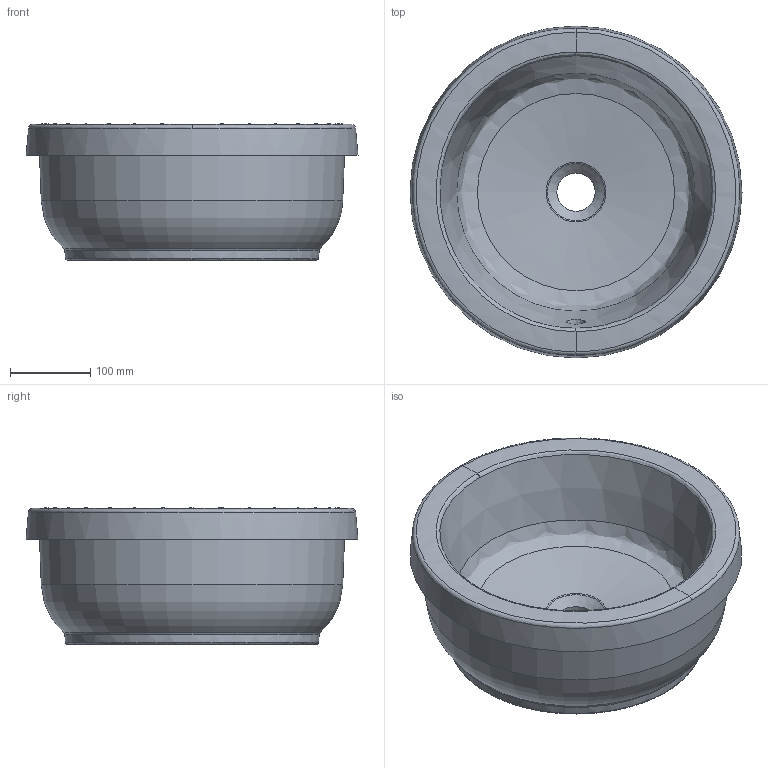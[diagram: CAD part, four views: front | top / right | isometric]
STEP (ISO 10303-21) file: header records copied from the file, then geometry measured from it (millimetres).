
FILE_DESCRIPTION(/* description */ (''),/* implementation_level */ '2;1');
FILE_NAME(/* name */ '416540_Martix_Rund_EWT.stp',/* time_stamp */ '2019-02-18T09:47:27+01:00',/* author */ (''),/* organization */ (''),/* preprocessor_version */ 'ST-DEVELOPER v16',/* originating_system */ 'SIEMENS PLM Software NX 10.0',/* authorisation */ '');
FILE_SCHEMA (('AUTOMOTIVE_DESIGN { 1 0 10303 214 3 1 1 1 }'));
Length unit declared in the file: millimetre
Products named in the file (1): math227069EC3xle
Bounding box: 414.78 x 414.78 x 169.98 mm (x, y, z)
Volume: 9767366.2 mm3; surface area: 519157.4 mm2
Topology: 1 solids, 1 shells, 29 faces, 68 edges, 43 vertices
Faces by surface type: cone 8, bspline 8, plane 7, torus 3, cylinder 1, extrusion 1, revolution 1
Full cylindrical faces by diameter (mm): 47.85 x1
Entity records: 3605 total; most frequent: CARTESIAN_POINT 3073, ORIENTED_EDGE 98, DIRECTION 84, EDGE_CURVE 49, EDGE_LOOP 45, AXIS2_PLACEMENT_3D 41, VERTEX_POINT 36, FACE_BOUND 31
